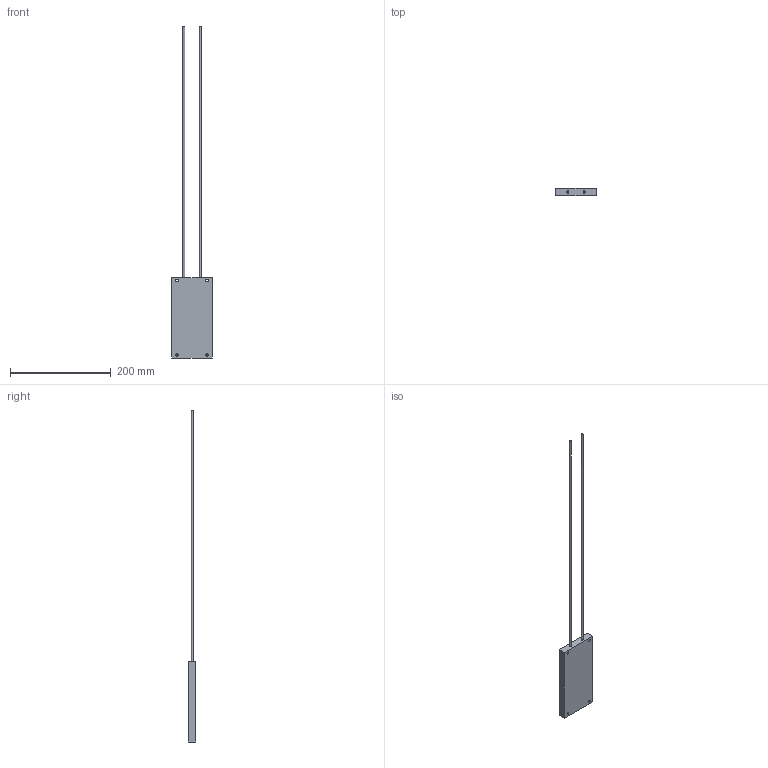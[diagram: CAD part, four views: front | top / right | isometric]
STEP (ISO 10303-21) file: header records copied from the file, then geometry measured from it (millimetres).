
FILE_DESCRIPTION(/* description */ (''),/* implementation_level */ '2;1');
FILE_NAME(/* name */ 'C:\_Vault\Dati\CATALOGO\RFD\RFD200.stp',/* time_stamp */ '2014-03-24T16:37:38+01:00',/* author */ ('stefano'),/* organization */ (''),/* preprocessor_version */ 'ST-DEVELOPER v15.2',/* originating_system */ 'Autodesk Inventor 2014',/* authorisation */ '');
FILE_SCHEMA (('AUTOMOTIVE_DESIGN { 1 0 10303 214 3 1 1 }'));
Length unit declared in the file: millimetre
Products named in the file (1): RFD200
Bounding box: 80 x 15 x 660.1 mm (x, y, z)
Volume: 203388.9 mm3; surface area: 46153 mm2
Topology: 1 solids, 1 shells, 18 faces, 40 edges, 28 vertices
Faces by surface type: plane 10, cylinder 8
Full cylindrical faces by diameter (mm): 2 x2, 4 x2, 5 x4
Entity records: 526 total; most frequent: DIRECTION 82, CARTESIAN_POINT 71, ORIENTED_EDGE 56, EDGE_LOOP 38, AXIS2_PLACEMENT_3D 35, EDGE_CURVE 28, FACE_BOUND 25, VERTEX_POINT 24
